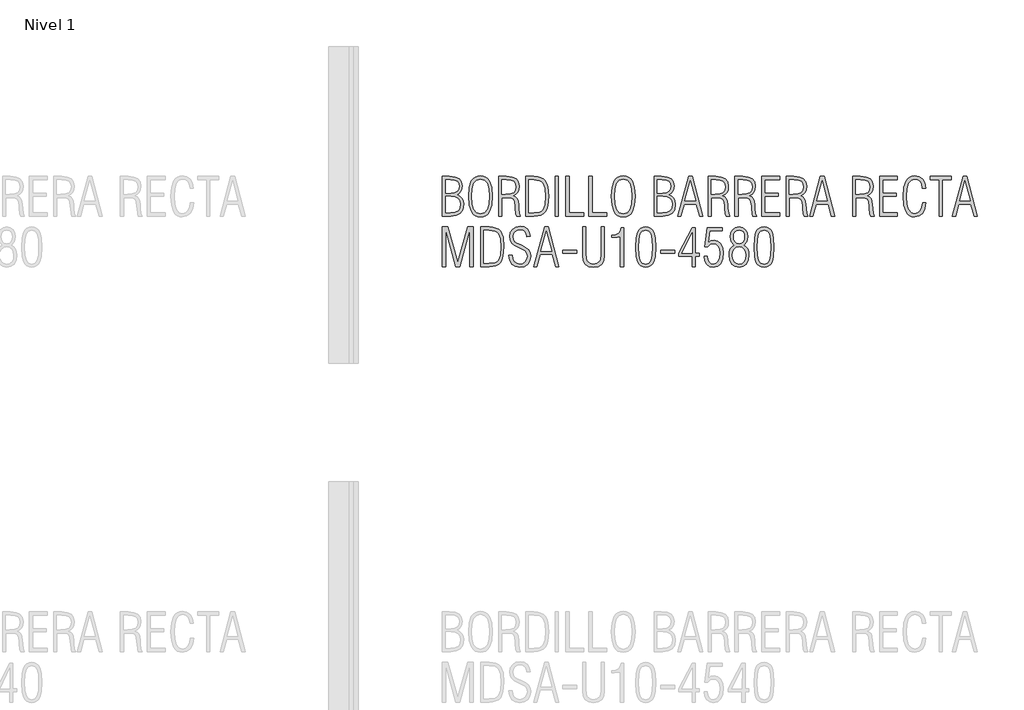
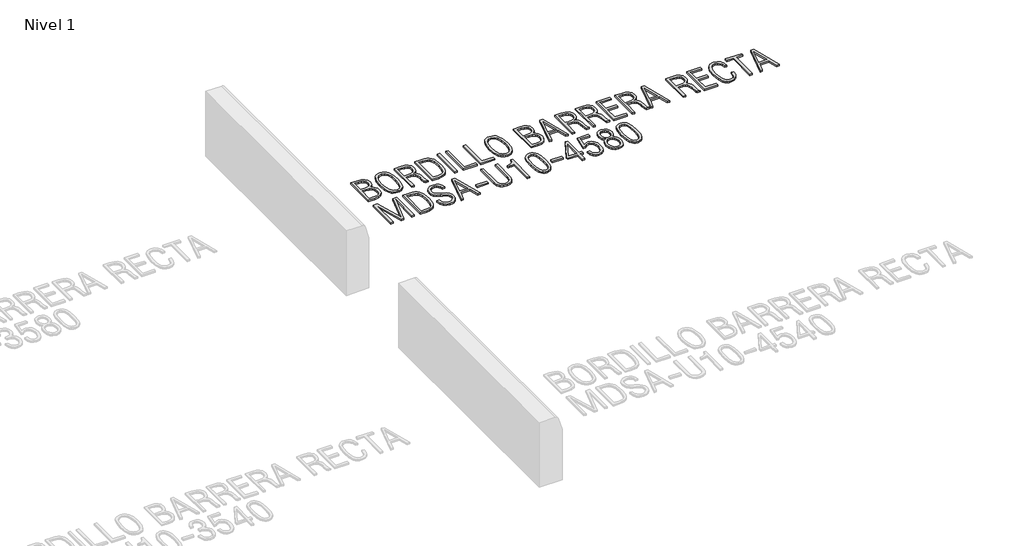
# One storey, part 4 of 4: 1 proxy.
"""IFC4 building model written with IfcOpenShell, lengths in millimetres."""

from ifc_helpers import new_model, si_unit, origin, origin_with_axes, place, context, project, spatial, polyline, outline, extrude, element, save

model = new_model("IFC4")

# Units and contexts
model_context = context("Model", 3, world=origin())
ifc_project = project(units=[si_unit("LENGTHUNIT", "METRE", prefix="MILLI")], contexts=[model_context])

# Site, building, storey
site = spatial("IfcSite", under=ifc_project)
building = spatial("IfcBuilding", under=site)
storey = spatial("IfcBuildingStorey", under=building, Name="Nivel 1", Elevation=0.0)

# Proxy
placement = place(None, origin())
element("IfcBuildingElementProxy", 1, Name="200mm", ObjectType="200mm", at=placement, inside=storey, context=model_context, shape_type="SweptSolid", body=[
    extrude(outline(polyline([(-268.5349981, 4281.6050587), (-268.5349981, 4482.0976811), (-232.7110895, 4482.0976811), (-202.9946773, 4479.3249915), (-183.1689986, 4471.0069224), (-172.0087648, 4456.4234589), (-168.2886868, 4434.8545859), (-169.8739832, 4419.5826869), (-174.6298723, 4407.3171667), (-182.6447771, 4397.8559158), (-194.0071205, 4390.9968247), (-179.5941869, 4382.7924423), (-169.6023986, 4372.1248503), (-163.7664868, 4358.5266706), (-161.8211829, 4341.530525), (-165.7307385, 4314.9025985), (-177.4594053, 4296.2579973), (-197.360875, 4285.2682933), (-225.7888391, 4281.6050587), (-268.5349981, 4281.6050587)]), holes=[polyline([(-252.3662382, 4297.7738185), (-227.9615162, 4297.7738185), (-204.9778767, 4300.3317669), (-189.5859752, 4308.0056119), (-180.8889509, 4321.5153687), (-177.9899427, 4341.5810523), (-180.9394782, 4359.5624818), (-189.7880847, 4372.0743229), (-204.8894538, 4379.4071082), (-226.5972771, 4381.8513699), (-252.3662382, 4381.8513699), (-252.3662382, 4297.7738185)]), polyline([(-252.3662382, 4398.0201298), (-227.4057151, 4398.0201298), (-207.9842555, 4400.1549114), (-194.68924, 4406.5592561), (-187.015395, 4417.6247511), (-184.4574467, 4433.7429836), (-187.015395, 4448.7243502), (-194.68924, 4458.6024519), (-208.6284795, 4464.0973039), (-229.9826112, 4465.9289213), (-252.3662382, 4465.9289213), (-252.3662382, 4398.0201298)])]), origin_with_axes(), (0.0, 0.0, 1.0), 10.0),
    extrude(outline(polyline([(-135.9511671, 4382.0534794), (-132.3321438, 4428.2797113), (-121.4750742, 4460.3456464), (-113.2154275, 4471.2769281), (-102.91258, 4479.0849864), (-90.5665318, 4483.7698214), (-76.1772829, 4485.3314331), (-61.7438225, 4483.7745584), (-49.3661947, 4479.1039342), (-39.0443995, 4471.3195605), (-30.7784368, 4460.4214374), (-19.9213672, 4428.3744501), (-16.302344, 4382.0534794), (-19.9403149, 4335.6819813), (-30.8542278, 4303.4834119), (-39.1438752, 4292.4968658), (-49.4609335, 4284.649333), (-61.8054028, 4279.9408133), (-76.1772829, 4278.3713067), (-90.5049515, 4279.9408133), (-102.8178411, 4284.649333), (-113.1159517, 4292.4968658), (-121.3992832, 4303.4834119), (-132.3131961, 4335.6819813), (-135.9511671, 4382.0534794)]), holes=[polyline([(-119.7824072, 4381.8513699), (-117.1107722, 4343.0842417), (-109.0958674, 4315.913146), (-95.4976877, 4299.8833364), (-76.0762281, 4294.5400666), (-56.6358207, 4299.8517568), (-43.0818525, 4315.7868276), (-35.123791, 4342.9263437), (-32.4711038, 4381.8513699), (-35.123791, 4420.7763961), (-43.0818525, 4447.9159122), (-56.6358207, 4463.850983), (-76.0762281, 4469.1626732), (-95.4976877, 4463.8194034), (-109.0958674, 4447.7895938), (-117.1107722, 4420.6184981), (-119.7824072, 4381.8513699)])]), origin_with_axes(), (0.0, 0.0, 1.0), 10.0),
    extrude(outline(polyline([(16.0351758, 4281.6050587), (16.0351758, 4482.0976811), (55.0928364, 4482.0976811), (83.9565991, 4479.0913024), (103.9528076, 4470.072166), (115.6246312, 4454.6992123), (119.515239, 4432.6313814), (117.6457262, 4415.4141785), (112.0371876, 4401.7591555), (102.550673, 4391.4263074), (89.0472321, 4384.1756291), (100.8390582, 4378.7881478), (108.8286993, 4370.609029), (113.7361706, 4358.0466605), (116.2814871, 4339.50943), (117.0393977, 4321.7237941), (119.8310351, 4295.7527235), (125.982743, 4281.6050587), (107.3886691, 4281.6050587), (103.119106, 4293.7442604), (100.8201104, 4318.5405695), (100.1127272, 4331.8797964), (97.2389827, 4354.212896), (91.3462277, 4367.1479039), (80.9439044, 4373.3248754), (64.5414554, 4375.3838659), (32.2039357, 4375.3838659), (32.2039357, 4281.6050587), (16.0351758, 4281.6050587)]), holes=[polyline([(32.2039357, 4391.5526258), (49.8379894, 4391.5526258), (74.6848259, 4393.8074099), (91.1188545, 4400.5717622), (100.289573, 4412.5025385), (103.3464791, 4430.2565948), (100.4411551, 4446.3685114), (91.725183, 4457.4150586), (76.6301298, 4463.8004556), (54.5875626, 4465.9289213), (32.2039357, 4465.9289213), (32.2039357, 4391.5526258)])]), origin_with_axes(), (0.0, 0.0, 1.0), 10.0),
    extrude(outline(polyline([(151.8527588, 4281.6050587), (151.8527588, 4482.0976811), (193.6388976, 4482.0976811), (212.6798229, 4480.7018624), (228.673316, 4476.5144063), (241.6193767, 4469.5353126), (251.5180052, 4459.7645816), (258.8460535, 4446.5295674), (264.0803737, 4429.1576244), (268.2678299, 4382.002952), (264.061426, 4334.8735433), (258.8034211, 4317.4573889), (251.4422142, 4304.1402677), (241.519901, 4294.2811138), (228.5785771, 4287.2388609), (212.6182427, 4283.0135092), (193.6388976, 4281.6050587), (151.8527588, 4281.6050587)]), holes=[polyline([(168.0215187, 4297.7738185), (192.5272954, 4297.7738185), (221.3531626, 4302.100225), (231.7302221, 4307.508233), (239.416699, 4315.0794443), (248.9284773, 4340.3620794), (252.09907, 4381.598733), (248.9284773, 4423.1511827), (239.416699, 4448.5727681), (231.7302221, 4456.1660851), (221.3531626, 4461.589883), (192.5272954, 4465.9289213), (168.0215187, 4465.9289213), (168.0215187, 4297.7738185)])]), origin_with_axes(), (0.0, 0.0, 1.0), 10.0),
    extrude(outline(polyline([(300.6053497, 4281.6050587), (300.6053497, 4482.0976811), (316.7741095, 4482.0976811), (316.7741095, 4281.6050587), (300.6053497, 4281.6050587)])), origin_with_axes(), (0.0, 0.0, 1.0), 10.0),
    extrude(outline(polyline([(355.5791333, 4281.6050587), (355.5791333, 4482.0976811), (371.7478931, 4482.0976811), (371.7478931, 4297.7738185), (446.1241886, 4297.7738185), (446.1241886, 4281.6050587), (355.5791333, 4281.6050587)])), origin_with_axes(), (0.0, 0.0, 1.0), 10.0),
    extrude(outline(polyline([(471.9942044, 4281.6050587), (471.9942044, 4482.0976811), (488.1629643, 4482.0976811), (488.1629643, 4297.7738185), (562.5392597, 4297.7738185), (562.5392597, 4281.6050587), (471.9942044, 4281.6050587)])), origin_with_axes(), (0.0, 0.0, 1.0), 10.0),
    extrude(outline(polyline([(585.1755235, 4382.0534794), (588.7945467, 4428.2797113), (599.6516164, 4460.3456464), (607.9112631, 4471.2769281), (618.2141106, 4479.0849864), (630.5601588, 4483.7698214), (644.9494077, 4485.3314331), (659.3828681, 4483.7745584), (671.7604959, 4479.1039342), (682.0822911, 4471.3195605), (690.3482538, 4460.4214374), (701.2053234, 4428.3744501), (704.8243466, 4382.0534794), (701.1863757, 4335.6819813), (690.2724627, 4303.4834119), (681.9828153, 4292.4968658), (671.665757, 4284.649333), (659.3212878, 4279.9408133), (644.9494077, 4278.3713067), (630.621739, 4279.9408133), (618.3088494, 4284.649333), (608.0107389, 4292.4968658), (599.7274074, 4303.4834119), (588.8134945, 4335.6819813), (585.1755235, 4382.0534794)]), holes=[polyline([(601.3442834, 4381.8513699), (604.0159183, 4343.0842417), (612.0308231, 4315.913146), (625.6290028, 4299.8833364), (645.0504625, 4294.5400666), (664.4908698, 4299.8517568), (678.0448381, 4315.7868276), (686.0028996, 4342.9263437), (688.6555867, 4381.8513699), (686.0028996, 4420.7763961), (678.0448381, 4447.9159122), (664.4908698, 4463.850983), (645.0504625, 4469.1626732), (625.6290028, 4463.8194034), (612.0308231, 4447.7895938), (604.0159183, 4420.6184981), (601.3442834, 4381.8513699)])]), origin_with_axes(), (0.0, 0.0, 1.0), 10.0),
    extrude(outline(polyline([(801.8369059, 4281.6050587), (801.8369059, 4482.0976811), (837.6608145, 4482.0976811), (867.3772267, 4479.3249915), (887.2029053, 4471.0069224), (898.3631392, 4456.4234589), (902.0832171, 4434.8545859), (900.4979208, 4419.5826869), (895.7420316, 4407.3171667), (887.7271268, 4397.8559158), (876.3647835, 4390.9968247), (890.7777171, 4382.7924423), (900.7695054, 4372.1248503), (906.6054172, 4358.5266706), (908.5507211, 4341.530525), (904.6411655, 4314.9025985), (892.9124987, 4296.2579973), (873.011029, 4285.2682933), (844.5830648, 4281.6050587), (801.8369059, 4281.6050587)]), holes=[polyline([(818.0056658, 4398.0201298), (842.9661888, 4398.0201298), (862.3876485, 4400.1549114), (875.6826639, 4406.5592561), (883.3565089, 4417.6247511), (885.9144573, 4433.7429836), (883.3565089, 4448.7243502), (875.6826639, 4458.6024519), (861.7434244, 4464.0973039), (840.3892927, 4465.9289213), (818.0056658, 4465.9289213), (818.0056658, 4398.0201298)]), polyline([(818.0056658, 4297.7738185), (842.4103877, 4297.7738185), (865.3940272, 4300.3317669), (880.7859287, 4308.0056119), (889.4829531, 4321.5153687), (892.3819612, 4341.5810523), (889.4324257, 4359.5624818), (880.5838192, 4372.0743229), (865.4824502, 4379.4071082), (843.7746268, 4381.8513699), (818.0056658, 4381.8513699), (818.0056658, 4297.7738185)])]), origin_with_axes(), (0.0, 0.0, 1.0), 10.0),
    extrude(outline(polyline([(921.485729, 4281.6050587), (975.0447461, 4482.0976811), (994.5988401, 4482.0976811), (1047.6020561, 4281.6050587), (1030.7764403, 4281.6050587), (1014.0013519, 4343.0463462), (954.0758856, 4343.0463462), (936.997633, 4281.6050587), (921.485729, 4281.6050587)]), holes=[polyline([(956.9054186, 4359.2151061), (1010.6160178, 4359.2151061), (983.8870367, 4459.9161637), (956.9054186, 4359.2151061)])]), origin_with_axes(), (0.0, 0.0, 1.0), 10.0),
    extrude(outline(polyline([(1073.4720719, 4281.6050587), (1073.4720719, 4482.0976811), (1112.5297324, 4482.0976811), (1141.3934952, 4479.0913024), (1161.3897037, 4470.072166), (1173.0615272, 4454.6992123), (1176.9521351, 4432.6313814), (1175.0826222, 4415.4141785), (1169.4740836, 4401.7591555), (1159.9875691, 4391.4263074), (1146.4841282, 4384.1756291), (1158.2759542, 4378.7881478), (1166.2655953, 4370.609029), (1171.1730666, 4358.0466605), (1173.7183831, 4339.50943), (1174.4762937, 4321.7237941), (1177.2679312, 4295.7527235), (1183.419639, 4281.6050587), (1164.8255652, 4281.6050587), (1160.556002, 4293.7442604), (1158.2570065, 4318.5405695), (1157.5496232, 4331.8797964), (1154.6758788, 4354.212896), (1148.7831237, 4367.1479039), (1138.3808005, 4373.3248754), (1121.9783515, 4375.3838659), (1089.6408317, 4375.3838659), (1089.6408317, 4281.6050587), (1073.4720719, 4281.6050587)]), holes=[polyline([(1089.6408317, 4391.5526258), (1107.2748855, 4391.5526258), (1132.1217219, 4393.8074099), (1148.5557505, 4400.5717622), (1157.726469, 4412.5025385), (1160.7833752, 4430.2565948), (1157.8780512, 4446.3685114), (1149.162079, 4457.4150586), (1134.0670259, 4463.8004556), (1112.0244587, 4465.9289213), (1089.6408317, 4465.9289213), (1089.6408317, 4391.5526258)])]), origin_with_axes(), (0.0, 0.0, 1.0), 10.0),
    extrude(outline(polyline([(1209.2896548, 4281.6050587), (1209.2896548, 4482.0976811), (1248.3473154, 4482.0976811), (1277.2110782, 4479.0913024), (1297.2072867, 4470.072166), (1308.8791102, 4454.6992123), (1312.7697181, 4432.6313814), (1310.9002052, 4415.4141785), (1305.2916666, 4401.7591555), (1295.805152, 4391.4263074), (1282.3017112, 4384.1756291), (1294.0935372, 4378.7881478), (1302.0831783, 4370.609029), (1306.9906496, 4358.0466605), (1309.5359661, 4339.50943), (1310.2938767, 4321.7237941), (1313.0855141, 4295.7527235), (1319.237222, 4281.6050587), (1300.6431481, 4281.6050587), (1296.373585, 4293.7442604), (1294.0745894, 4318.5405695), (1293.3672062, 4331.8797964), (1290.4934618, 4354.212896), (1284.6007067, 4367.1479039), (1274.1983835, 4373.3248754), (1257.7959345, 4375.3838659), (1225.4584147, 4375.3838659), (1225.4584147, 4281.6050587), (1209.2896548, 4281.6050587)]), holes=[polyline([(1225.4584147, 4391.5526258), (1243.0924685, 4391.5526258), (1267.9393049, 4393.8074099), (1284.3733335, 4400.5717622), (1293.544052, 4412.5025385), (1296.6009582, 4430.2565948), (1293.6956341, 4446.3685114), (1284.979662, 4457.4150586), (1269.8846088, 4463.8004556), (1247.8420417, 4465.9289213), (1225.4584147, 4465.9289213), (1225.4584147, 4391.5526258)])]), origin_with_axes(), (0.0, 0.0, 1.0), 10.0),
    extrude(outline(polyline([(1345.1072378, 4281.6050587), (1345.1072378, 4482.0976811), (1435.6522931, 4482.0976811), (1435.6522931, 4465.9289213), (1361.2759977, 4465.9289213), (1361.2759977, 4398.0201298), (1429.1847892, 4398.0201298), (1429.1847892, 4381.8513699), (1361.2759977, 4381.8513699), (1361.2759977, 4297.7738185), (1435.6522931, 4297.7738185), (1435.6522931, 4281.6050587), (1345.1072378, 4281.6050587)])), origin_with_axes(), (0.0, 0.0, 1.0), 10.0),
    extrude(outline(polyline([(1467.9898129, 4281.6050587), (1467.9898129, 4482.0976811), (1507.0474735, 4482.0976811), (1535.9112362, 4479.0913024), (1555.9074447, 4470.072166), (1567.5792683, 4454.6992123), (1571.4698761, 4432.6313814), (1569.6003633, 4415.4141785), (1563.9918247, 4401.7591555), (1554.5053101, 4391.4263074), (1541.0018692, 4384.1756291), (1552.7936953, 4378.7881478), (1560.7833364, 4370.609029), (1565.6908076, 4358.0466605), (1568.2361241, 4339.50943), (1568.9940348, 4321.7237941), (1571.7856722, 4295.7527235), (1577.9373801, 4281.6050587), (1559.3433062, 4281.6050587), (1555.073743, 4293.7442604), (1552.7747475, 4318.5405695), (1552.0673643, 4331.8797964), (1549.1936198, 4354.212896), (1543.3008648, 4367.1479039), (1532.8985415, 4373.3248754), (1516.4960925, 4375.3838659), (1484.1585728, 4375.3838659), (1484.1585728, 4281.6050587), (1467.9898129, 4281.6050587)]), holes=[polyline([(1484.1585728, 4391.5526258), (1501.7926265, 4391.5526258), (1526.639463, 4393.8074099), (1543.0734916, 4400.5717622), (1552.2442101, 4412.5025385), (1555.3011162, 4430.2565948), (1552.3957922, 4446.3685114), (1543.6798201, 4457.4150586), (1528.5847669, 4463.8004556), (1506.5421997, 4465.9289213), (1484.1585728, 4465.9289213), (1484.1585728, 4391.5526258)])]), origin_with_axes(), (0.0, 0.0, 1.0), 10.0),
    extrude(outline(polyline([(1587.638636, 4281.6050587), (1641.1976531, 4482.0976811), (1660.7517471, 4482.0976811), (1713.754963, 4281.6050587), (1696.9293473, 4281.6050587), (1680.1542589, 4343.0463462), (1620.2287926, 4343.0463462), (1603.15054, 4281.6050587), (1587.638636, 4281.6050587)]), holes=[polyline([(1623.0583256, 4359.2151061), (1676.7689248, 4359.2151061), (1650.0399436, 4459.9161637), (1623.0583256, 4359.2151061)])]), origin_with_axes(), (0.0, 0.0, 1.0), 10.0),
    extrude(outline(polyline([(1804.3000184, 4281.6050587), (1804.3000184, 4482.0976811), (1843.3576789, 4482.0976811), (1872.2214417, 4479.0913024), (1892.2176502, 4470.072166), (1903.8894737, 4454.6992123), (1907.7800816, 4432.6313814), (1905.9105687, 4415.4141785), (1900.3020301, 4401.7591555), (1890.8155156, 4391.4263074), (1877.3120747, 4384.1756291), (1889.1039007, 4378.7881478), (1897.0935419, 4370.609029), (1902.0010131, 4358.0466605), (1904.5463296, 4339.50943), (1905.3042402, 4321.7237941), (1908.0958777, 4295.7527235), (1914.2475855, 4281.6050587), (1895.6535117, 4281.6050587), (1891.3839485, 4293.7442604), (1889.084953, 4318.5405695), (1888.3775697, 4331.8797964), (1885.5038253, 4354.212896), (1879.6110702, 4367.1479039), (1869.208747, 4373.3248754), (1852.806298, 4375.3838659), (1820.4687782, 4375.3838659), (1820.4687782, 4281.6050587), (1804.3000184, 4281.6050587)]), holes=[polyline([(1820.4687782, 4391.5526258), (1838.102832, 4391.5526258), (1862.9496685, 4393.8074099), (1879.383697, 4400.5717622), (1888.5544155, 4412.5025385), (1891.6113217, 4430.2565948), (1888.7059977, 4446.3685114), (1879.9900255, 4457.4150586), (1864.8949724, 4463.8004556), (1842.8524052, 4465.9289213), (1820.4687782, 4465.9289213), (1820.4687782, 4391.5526258)])]), origin_with_axes(), (0.0, 0.0, 1.0), 10.0),
    extrude(outline(polyline([(1940.1176013, 4281.6050587), (1940.1176013, 4482.0976811), (2030.6626567, 4482.0976811), (2030.6626567, 4465.9289213), (1956.2863612, 4465.9289213), (1956.2863612, 4398.0201298), (2024.1951527, 4398.0201298), (2024.1951527, 4381.8513699), (1956.2863612, 4381.8513699), (1956.2863612, 4297.7738185), (2030.6626567, 4297.7738185), (2030.6626567, 4281.6050587), (1940.1176013, 4281.6050587)])), origin_with_axes(), (0.0, 0.0, 1.0), 10.0),
    extrude(outline(polyline([(2174.2614553, 4349.5138501), (2168.9623969, 4318.6732039), (2157.7137401, 4296.3843157), (2140.7175945, 4282.8745589), (2118.1760695, 4278.3713067), (2104.1168275, 4279.9408133), (2092.0534168, 4284.649333), (2081.9858374, 4292.4968658), (2073.9140893, 4303.4834119), (2063.3033407, 4335.6819813), (2059.7664244, 4382.0534794), (2063.3033407, 4428.2797113), (2073.9140893, 4460.3456464), (2081.9858374, 4471.2769281), (2092.0534168, 4479.0849864), (2104.1168275, 4483.7698214), (2118.1760695, 4485.3314331), (2140.6039079, 4481.2639795), (2157.7642675, 4469.0616185), (2168.8234466, 4449.633843), (2172.9477436, 4423.8901456), (2156.7789837, 4423.7385635), (2153.4568088, 4442.9326499), (2145.6124339, 4457.2634765), (2133.6753417, 4466.1878741), (2118.0750148, 4469.1626732), (2099.3546225, 4463.850983), (2086.2427687, 4447.9159122), (2078.5120804, 4420.7763961), (2075.9351843, 4381.8513699), (2078.5057645, 4342.9263437), (2086.2175051, 4315.7868276), (2099.310411, 4299.8517568), (2118.0244874, 4294.5400666), (2133.7953442, 4298.1211942), (2146.0419166, 4308.8645773), (2154.334722, 4326.1891508), (2158.2442776, 4349.5138501), (2174.2614553, 4349.5138501)])), origin_with_axes(), (0.0, 0.0, 1.0), 10.0),
    extrude(outline(polyline([(2240.8565351, 4281.6050587), (2240.8565351, 4465.9289213), (2195.5840074, 4465.9289213), (2195.5840074, 4482.0976811), (2302.2978226, 4482.0976811), (2302.2978226, 4465.9289213), (2257.025295, 4465.9289213), (2257.025295, 4281.6050587), (2240.8565351, 4281.6050587)])), origin_with_axes(), (0.0, 0.0, 1.0), 10.0),
    extrude(outline(polyline([(2308.7653266, 4281.6050587), (2362.3243437, 4482.0976811), (2381.8784376, 4482.0976811), (2434.8816536, 4281.6050587), (2418.0560379, 4281.6050587), (2401.2809495, 4343.0463462), (2341.3554832, 4343.0463462), (2324.2772306, 4281.6050587), (2308.7653266, 4281.6050587)]), holes=[polyline([(2344.1850162, 4359.2151061), (2397.8956154, 4359.2151061), (2371.1666342, 4459.9161637), (2344.1850162, 4359.2151061)])]), origin_with_axes(), (0.0, 0.0, 1.0), 10.0),
    extrude(outline(polyline([(-268.5349981, 4026.6312751), (-268.5349981, 4227.1238976), (-240.4923051, 4227.1238976), (-190.9249506, 4050.0254495), (-141.1049593, 4227.1238976), (-113.3149032, 4227.1238976), (-113.3149032, 4026.6312751), (-129.4836631, 4026.6312751), (-129.4836631, 4212.8246505), (-181.6784411, 4026.6312751), (-199.7672412, 4026.6312751), (-252.3662382, 4212.8246505), (-252.3662382, 4026.6312751), (-268.5349981, 4026.6312751)])), origin_with_axes(), (0.0, 0.0, 1.0), 10.0),
    extrude(outline(polyline([(-74.5098795, 4026.6312751), (-74.5098795, 4227.1238976), (-32.7237407, 4227.1238976), (-13.6828154, 4225.7280788), (2.3106777, 4221.5406227), (15.2567384, 4214.561529), (25.1553669, 4204.790798), (32.4834152, 4191.5557838), (37.7177354, 4174.1838408), (41.9051916, 4127.0291684), (37.6987877, 4079.8997598), (32.4407828, 4062.4836053), (25.0795759, 4049.1664841), (15.1572627, 4039.3073302), (2.2159388, 4032.2650773), (-13.7443956, 4028.0397256), (-32.7237407, 4026.6312751), (-74.5098795, 4026.6312751)]), holes=[polyline([(-58.3411196, 4042.8000349), (-33.8353429, 4042.8000349), (-5.0094757, 4047.1264414), (5.3675838, 4052.5344495), (13.0540607, 4060.1056608), (22.565839, 4085.3882958), (25.7364317, 4126.6249494), (22.565839, 4168.1773991), (13.0540607, 4193.5989845), (5.3675838, 4201.1923015), (-5.0094757, 4206.6160994), (-33.8353429, 4210.9551377), (-58.3411196, 4210.9551377), (-58.3411196, 4042.8000349)])]), origin_with_axes(), (0.0, 0.0, 1.0), 10.0),
    extrude(outline(polyline([(67.7752074, 4084.8388106), (83.9439673, 4084.8388106), (86.9629779, 4065.7584108), (94.5041886, 4051.4654797), (106.0749574, 4042.5410821), (121.1826424, 4039.566283), (138.0082581, 4042.2379179), (150.7916839, 4050.2528227), (158.863432, 4062.916246), (161.5540147, 4079.5334363), (158.623427, 4095.2474498), (149.0232258, 4107.272965), (125.4269419, 4118.9447885), (113.8056457, 4123.4922522), (93.9294397, 4133.9072073), (80.7860064, 4145.9516702), (73.4532211, 4160.6614522), (71.0089594, 4179.0723643), (74.7227214, 4199.4412122), (85.8640075, 4215.8815567), (102.7780462, 4226.7386263), (123.8100659, 4230.3576495), (144.8610333, 4226.9975791), (160.9224225, 4216.9173679), (171.0973726, 4200.9380857), (174.4890226, 4179.8808023), (158.3202627, 4178.6176179), (155.3201999, 4193.7379348), (148.442161, 4204.9423801), (138.0272059, 4211.8772623), (124.4163944, 4214.1888897), (109.6560851, 4211.6183095), (97.7126769, 4203.9065689), (89.8114587, 4192.2410613), (87.1777193, 4177.8091799), (89.3503964, 4164.469953), (95.767373, 4153.3539306), (106.9465546, 4145.0169138), (126.6395988, 4136.1746232), (133.1576302, 4133.5471998), (153.8864856, 4123.2964586), (167.5667723, 4111.5425281), (175.183774, 4097.1864378), (177.7227746, 4079.1292173), (174.0279603, 4055.962416), (162.9435175, 4038.3030986), (145.4420981, 4027.123917), (122.4963541, 4023.3975231), (99.7085082, 4027.3765538), (82.6807829, 4039.3136461), (71.8805566, 4058.6529987), (67.7752074, 4084.8388106)])), origin_with_axes(), (0.0, 0.0, 1.0), 10.0),
    extrude(outline(polyline([(193.8915345, 4026.6312751), (247.4505516, 4227.1238976), (267.0046455, 4227.1238976), (320.0078615, 4026.6312751), (303.1822458, 4026.6312751), (286.4071574, 4088.0725626), (226.4816911, 4088.0725626), (209.4034385, 4026.6312751), (193.8915345, 4026.6312751)]), holes=[polyline([(229.3112241, 4104.2413225), (283.0218233, 4104.2413225), (256.2928421, 4204.9423801), (229.3112241, 4104.2413225)])]), origin_with_axes(), (0.0, 0.0, 1.0), 10.0),
    extrude(outline(polyline([(339.4103734, 4094.5400666), (339.4103734, 4110.7088264), (410.5529168, 4110.7088264), (410.5529168, 4094.5400666), (339.4103734, 4094.5400666)])), origin_with_axes(), (0.0, 0.0, 1.0), 10.0),
    extrude(outline(polyline([(549.6042518, 4227.1238976), (549.6042518, 4080.847148), (546.0925993, 4056.2024211), (535.5576416, 4038.1515165), (518.3404387, 4027.0860214), (494.7820503, 4023.3975231), (470.9962887, 4027.0733896), (453.7032948, 4038.1009891), (443.1683372, 4056.1392618), (439.6566846, 4080.847148), (439.6566846, 4227.1238976), (455.8254445, 4227.1238976), (455.8254445, 4093.2263548), (457.0886289, 4068.8721602), (461.3329283, 4056.8971725), (475.0258469, 4044.0632193), (494.7820503, 4039.566283), (514.5129901, 4044.1390104), (528.2311723, 4056.8971725), (532.2228349, 4067.4573938), (533.4354919, 4084.1314274), (533.4354919, 4093.2263548), (533.4354919, 4227.1238976), (549.6042518, 4227.1238976)])), origin_with_axes(), (0.0, 0.0, 1.0), 10.0),
    extrude(outline(polyline([(630.4480512, 4026.6312751), (630.4480512, 4177.7081252), (615.0119382, 4176.0407218), (599.1716063, 4175.3838659), (592.6788387, 4175.4343933), (588.4092755, 4175.7375576), (588.4092755, 4185.0851219), (608.0328446, 4187.9714981), (621.5299696, 4194.8116415), (629.8859341, 4206.4897809), (634.0860222, 4223.8901456), (646.6168111, 4223.8901456), (646.6168111, 4026.6312751), (630.4480512, 4026.6312751)])), origin_with_axes(), (0.0, 0.0, 1.0), 10.0),
    extrude(outline(polyline([(708.0580986, 4125.4628198), (710.3065668, 4173.2364525), (717.3046082, 4200.3949164), (724.9405576, 4212.0414762), (734.3070697, 4220.4037567), (745.3915125, 4225.4438624), (758.1812542, 4227.1238976), (770.9709959, 4225.4312305), (782.0554387, 4220.3532294), (791.3587916, 4211.978317), (798.8052634, 4200.3949164), (805.9801506, 4172.2511687), (808.3044098, 4125.4628198), (806.0559417, 4077.8155056), (798.8052634, 4050.1265043), (791.3587916, 4038.5431036), (782.0554387, 4030.1681913), (770.9709959, 4025.0901901), (758.1812542, 4023.3975231), (745.3915125, 4025.0901901), (734.3070697, 4030.1681913), (724.9405576, 4038.5431036), (717.3046082, 4050.1265043), (710.3065668, 4077.3607592), (708.0580986, 4125.4628198)]), holes=[polyline([(724.2268585, 4125.3112377), (726.1658465, 4084.4345916), (731.9828105, 4058.311939), (742.448293, 4044.252697), (758.3328364, 4039.566283), (774.0531658, 4044.2211174), (784.4302253, 4058.1856205), (790.2092938, 4084.2766936), (792.13565, 4125.3112377), (790.2092938, 4166.2699908), (784.4302253, 4192.3358001), (774.0531658, 4206.3003033), (758.3328364, 4210.9551377), (742.448293, 4206.2687237), (731.9828105, 4192.2094817), (726.1658465, 4166.1120927), (724.2268585, 4125.3112377)])]), origin_with_axes(), (0.0, 0.0, 1.0), 10.0),
    extrude(outline(polyline([(834.1744257, 4094.5400666), (834.1744257, 4110.7088264), (905.3169691, 4110.7088264), (905.3169691, 4094.5400666), (834.1744257, 4094.5400666)])), origin_with_axes(), (0.0, 0.0, 1.0), 10.0),
    extrude(outline(polyline([(992.6282725, 4026.6312751), (992.6282725, 4078.3713067), (924.719481, 4078.3713067), (924.719481, 4094.5400666), (992.6282725, 4223.8901456), (1008.7970323, 4223.8901456), (1008.7970323, 4094.5400666), (1028.1995442, 4094.5400666), (1028.1995442, 4078.3713067), (1008.7970323, 4078.3713067), (1008.7970323, 4026.6312751), (992.6282725, 4026.6312751)]), holes=[polyline([(941.5450967, 4094.5400666), (992.6282725, 4094.5400666), (994.3462032, 4198.5759309), (941.5450967, 4094.5400666)])]), origin_with_axes(), (0.0, 0.0, 1.0), 10.0),
    extrude(outline(polyline([(1054.06956, 4078.3713067), (1070.2383199, 4078.3713067), (1073.45944, 4061.4256884), (1079.4848294, 4049.2928026), (1088.32712, 4041.9979129), (1099.9989435, 4039.566283), (1114.6897777, 4043.2042539), (1125.7173772, 4054.1181669), (1132.6143638, 4071.6764295), (1134.9133594, 4095.2474498), (1132.7154186, 4115.3068175), (1126.1215962, 4130.4145025), (1115.6624297, 4139.8883853), (1101.8684564, 4143.0463462), (1083.9312384, 4138.8525741), (1071.5520316, 4126.8775863), (1057.303312, 4126.8775863), (1070.6425389, 4223.8901456), (1144.6146153, 4223.8901456), (1144.6146153, 4207.7213857), (1081.6575065, 4207.7213857), (1073.4720719, 4146.9874814), (1088.0492194, 4156.233991), (1103.839024, 4159.2151061), (1123.228904, 4155.0402817), (1138.2481661, 4142.5158088), (1147.873631, 4122.7911849), (1151.0821193, 4097.0159079), (1147.7852081, 4065.3605077), (1137.8944745, 4042.2442338), (1121.7130828, 4028.1092008), (1099.5441972, 4023.3975231), (1081.1206532, 4027.0354941), (1066.9793042, 4037.949407), (1057.7517424, 4055.3308238), (1054.06956, 4078.3713067)])), origin_with_axes(), (0.0, 0.0, 1.0), 10.0),
    extrude(outline(polyline([(1207.2180325, 4135.4167126), (1191.8071832, 4152.4949652), (1186.653391, 4176.9502146), (1189.565031, 4197.9064432), (1198.2999509, 4213.7846707), (1212.1255037, 4223.7890908), (1230.3090427, 4227.1238976), (1248.5873204, 4223.7890908), (1262.3939256, 4213.7846707), (1271.0720022, 4197.9064432), (1273.9646943, 4176.9502146), (1268.9119569, 4152.7476021), (1253.2484708, 4135.4167126), (1265.1097719, 4127.629181), (1273.6110027, 4116.3931561), (1278.7268994, 4101.8223244), (1280.4321983, 4084.0303726), (1277.1668667, 4058.4508892), (1267.370872, 4039.3136461), (1251.612647, 4027.3765538), (1230.4606248, 4023.3975231), (1209.3338663, 4027.3765538), (1193.4493229, 4039.3136461), (1183.501746, 4058.4508892), (1180.1858871, 4084.0303726), (1181.88487, 4101.8223244), (1186.9818189, 4116.3931561), (1195.4388383, 4127.629181), (1207.2180325, 4135.4167126)]), holes=[polyline([(1257.7959345, 4177.6575978), (1256.0022127, 4191.704208), (1250.6210473, 4202.2139019), (1241.9682344, 4208.7698287), (1230.3595701, 4210.9551377), (1218.8330127, 4208.750881), (1210.1233565, 4202.1381108), (1204.6474523, 4191.6094691), (1202.8221509, 4177.6575978), (1204.6474523, 4163.1625572), (1210.1233565, 4152.2170647), (1218.8330127, 4145.3390258), (1230.3595701, 4143.0463462), (1241.9050752, 4145.326394), (1250.5705199, 4152.1665373), (1255.9895808, 4163.099398), (1257.7959345, 4177.6575978)]), polyline([(1264.2634384, 4083.8787905), (1261.9454951, 4101.4749487), (1254.9916652, 4115.1552354), (1244.2230185, 4123.9469986), (1230.4606248, 4126.8775863), (1216.5655968, 4123.9659463), (1205.7022112, 4115.2310265), (1198.691538, 4101.6328468), (1196.3546469, 4084.1314274), (1198.5904833, 4065.6763038), (1205.2979922, 4051.5412708), (1215.7824225, 4042.5600299), (1229.3490226, 4039.566283), (1244.1030159, 4042.4652911), (1255.1179836, 4051.1623154), (1261.9770747, 4065.1394504), (1264.2634384, 4083.8787905)])]), origin_with_axes(), (0.0, 0.0, 1.0), 10.0),
    extrude(outline(polyline([(1306.3022141, 4125.4628198), (1308.5506823, 4173.2364525), (1315.5487237, 4200.3949164), (1323.1846732, 4212.0414762), (1332.5511852, 4220.4037567), (1343.635628, 4225.4438624), (1356.4253697, 4227.1238976), (1369.2151114, 4225.4312305), (1380.2995542, 4220.3532294), (1389.6029071, 4211.978317), (1397.0493789, 4200.3949164), (1404.2242661, 4172.2511687), (1406.5485254, 4125.4628198), (1404.3000572, 4077.8155056), (1397.0493789, 4050.1265043), (1389.6029071, 4038.5431036), (1380.2995542, 4030.1681913), (1369.2151114, 4025.0901901), (1356.4253697, 4023.3975231), (1343.635628, 4025.0901901), (1332.5511852, 4030.1681913), (1323.1846732, 4038.5431036), (1315.5487237, 4050.1265043), (1308.5506823, 4077.3607592), (1306.3022141, 4125.4628198)]), holes=[polyline([(1322.470974, 4125.3112377), (1324.409962, 4084.4345916), (1330.226926, 4058.311939), (1340.6924085, 4044.252697), (1356.5769519, 4039.566283), (1372.2972813, 4044.2211174), (1382.6743408, 4058.1856205), (1388.4534093, 4084.2766936), (1390.3797655, 4125.3112377), (1388.4534093, 4166.2699908), (1382.6743408, 4192.3358001), (1372.2972813, 4206.3003033), (1356.5769519, 4210.9551377), (1340.6924085, 4206.2687237), (1330.226926, 4192.2094817), (1324.409962, 4166.1120927), (1322.470974, 4125.3112377)])]), origin_with_axes(), (0.0, 0.0, 1.0), 10.0),
])

save(model, "model.ifc")
